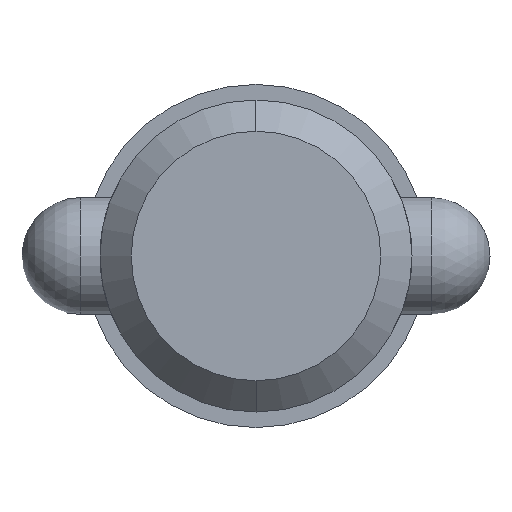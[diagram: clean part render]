
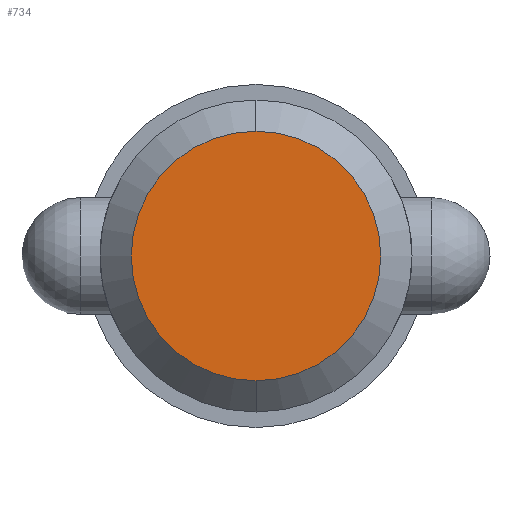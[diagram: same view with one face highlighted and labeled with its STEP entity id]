
A CAD part, left-side view. The second image highlights one B-rep face of the part: STEP entity #734.
In plain terms, the highlighted planar face has unit normal (-1, 0, 0).
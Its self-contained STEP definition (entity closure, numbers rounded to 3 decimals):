
#13 = DIRECTION ( 'NONE',  ( 1., 0., 0. ) ) ;
#22 = CIRCLE ( 'NONE', #860, 10.16 ) ;
#46 = CARTESIAN_POINT ( 'NONE',  ( 0., 0., -10.16 ) ) ;
#126 = DIRECTION ( 'NONE',  ( 1., 0., 0. ) ) ;
#156 = DIRECTION ( 'NONE',  ( 0., 0., -1. ) ) ;
#184 = EDGE_LOOP ( 'NONE', ( #335, #771 ) ) ;
#197 = FACE_OUTER_BOUND ( 'NONE', #184, .T. ) ;
#249 = CARTESIAN_POINT ( 'NONE',  ( 0., 0., 0. ) ) ;
#311 = AXIS2_PLACEMENT_3D ( 'NONE', #467, #126, #940 ) ;
#312 = CARTESIAN_POINT ( 'NONE',  ( 0., 0., 10.16 ) ) ;
#313 = EDGE_CURVE ( 'NONE', #440, #474, #22, .T. ) ;
#335 = ORIENTED_EDGE ( 'NONE', *, *, #313, .F. ) ;
#370 = PLANE ( 'NONE',  #574 ) ;
#384 = CARTESIAN_POINT ( 'NONE',  ( 0., 0., 0. ) ) ;
#440 = VERTEX_POINT ( 'NONE', #46 ) ;
#467 = CARTESIAN_POINT ( 'NONE',  ( 0., 0., 0. ) ) ;
#474 = VERTEX_POINT ( 'NONE', #312 ) ;
#548 = DIRECTION ( 'NONE',  ( -1., 0., 0. ) ) ;
#574 = AXIS2_PLACEMENT_3D ( 'NONE', #384, #548, #713 ) ;
#699 = EDGE_CURVE ( 'NONE', #474, #440, #965, .T. ) ;
#713 = DIRECTION ( 'NONE',  ( 0., 0., 1. ) ) ;
#734 = ADVANCED_FACE ( 'NONE', ( #197 ), #370, .T. ) ;
#771 = ORIENTED_EDGE ( 'NONE', *, *, #699, .F. ) ;
#860 = AXIS2_PLACEMENT_3D ( 'NONE', #249, #13, #156 ) ;
#940 = DIRECTION ( 'NONE',  ( 0., 0., -1. ) ) ;
#965 = CIRCLE ( 'NONE', #311, 10.16 ) ;
